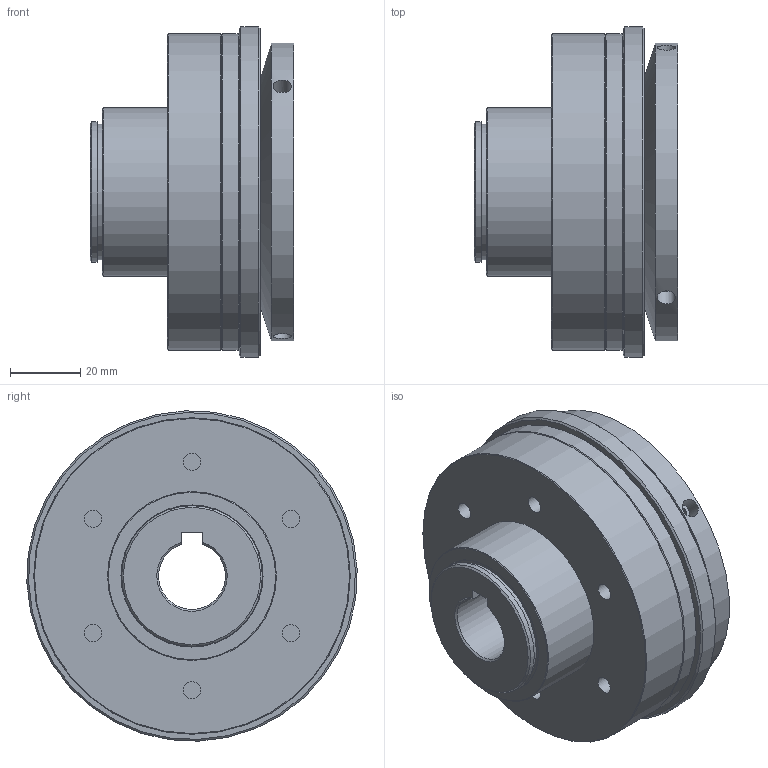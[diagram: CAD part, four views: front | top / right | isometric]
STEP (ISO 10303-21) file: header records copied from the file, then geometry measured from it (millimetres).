
FILE_DESCRIPTION( ( 'Unknown' ), '1' );
FILE_NAME( 'C:/Users/TWalzel/Documents/CAD-Daten/KBK-CP/150/KBK C-P-150.stp', 'Unknown', ( 'Unknown' ), ( 'Unknown' ), 'PSStep 16.0.42', 'Unknown', ' ' );
FILE_SCHEMA( ( 'AUTOMOTIVE_DESIGN { 1 0 10303 214 1 1 1 1 }' ) );
Length unit declared in the file: millimetre
Products named in the file (7): Druckring 80_0; Stellring 80_0; Assem1; Flansch-Gleitlager CK-80; Grundkörper CP-80_1
Assembly tree (6 placements, depth 3):
  Assem1
    Flansch-Gleitlager CK-80
    Grundkörper CP-80_1
    Stellring 80_0
      Stellring 80_0
    Druckring 80_0
      Druckring 80_0
Bounding box: 58 x 93.92 x 93.92 mm (x, y, z)
Volume: 225980.6 mm3; surface area: 66070.6 mm2
Topology: 4 solids, 4 shells, 92 faces, 188 edges, 120 vertices
Faces by surface type: cylinder 36, plane 33, cone 21, torus 2
Full cylindrical faces by diameter (mm): 3.242 x3, 4.917 x12, 5 x4, 5.2 x3, 38.5 x1, 40 x3, 48 x1, 62 x2, 70 x1, 85 x1, 87 x1, 90 x2, 94 x1
Entity records: 3188 total; most frequent: CARTESIAN_POINT 659, DIRECTION 388, ORIENTED_EDGE 220, AXIS2_PLACEMENT_3D 185, EDGE_LOOP 180, FACE_OUTER_BOUND 129, EDGE_CURVE 110, VERTEX_POINT 100
